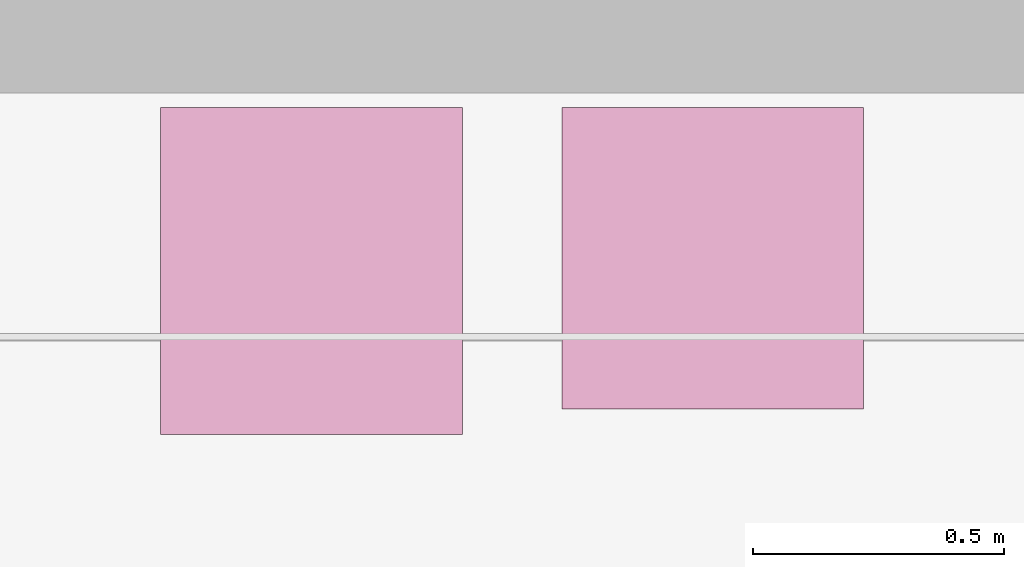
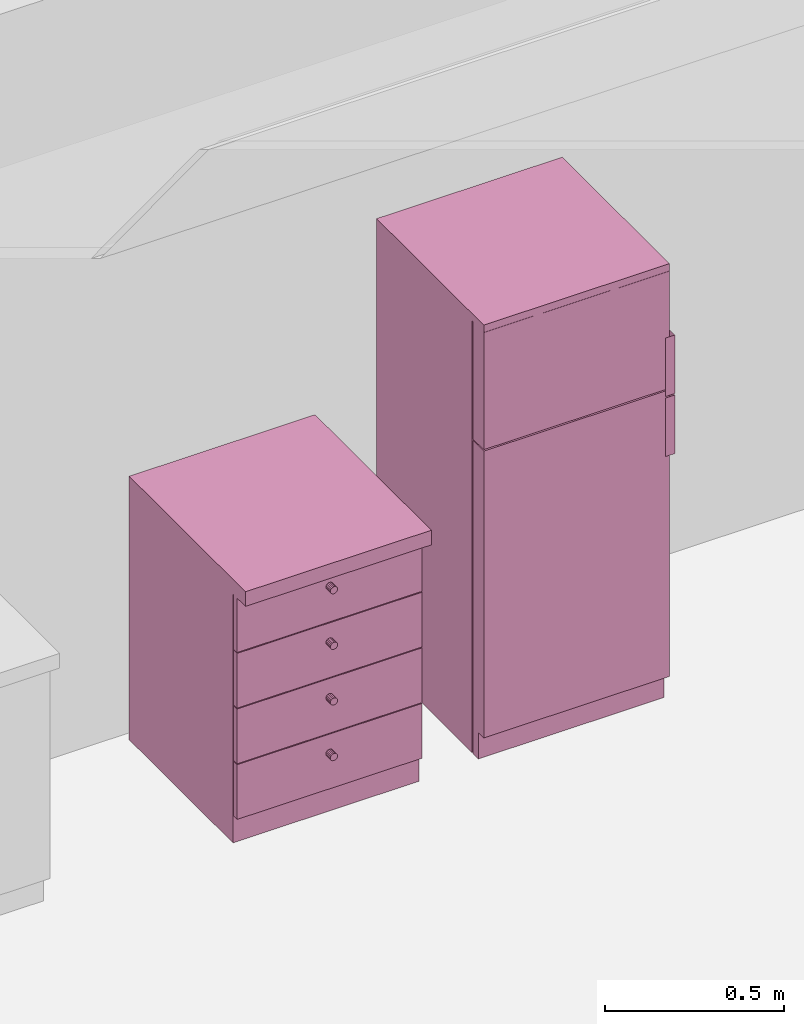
# One storey, part 96 of 127: 2 furnishings.
"""IFC2X3 building model written with IfcOpenShell, lengths in millimetres."""

from ifc_helpers import new_model, entity, si_unit, converted_unit, derived_unit, money_unit, direction, frame, origin_with_axes, place, context, subcontext, project, spatial, open_shell, faceted_brep, surface_model, source, transform, mapped, type_object, element, save


model = new_model("IFC2X3")

# Units and contexts
model_context = context("Model", 3, precision=1e-05, world=origin_with_axes(), true_north=direction((0.0, 1.0)))
body_context = subcontext(model_context, "Body", "Model", "MODEL_VIEW")
ifc_project = project(units=[si_unit("LENGTHUNIT", "METRE", prefix="MILLI"), si_unit("AREAUNIT", "SQUARE_METRE"), si_unit("VOLUMEUNIT", "CUBIC_METRE"), converted_unit("PLANEANGLEUNIT", "DEGREE", entity("IfcPlaneAngleMeasure", 0.0174532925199), si_unit("PLANEANGLEUNIT", "RADIAN"), dimensions=[0, 0, 0, 0, 0, 0, 0]), si_unit("SOLIDANGLEUNIT", "STERADIAN"), money_unit("EUR"), converted_unit("TIMEUNIT", "Year", entity("IfcTimeMeasure", 31556926.0), si_unit("TIMEUNIT", "SECOND"), dimensions=[0, 0, 1, 0, 0, 0, 0]), si_unit("MASSUNIT", "GRAM", prefix="KILO"), si_unit("THERMODYNAMICTEMPERATUREUNIT", "DEGREE_CELSIUS"), si_unit("LUMINOUSINTENSITYUNIT", "LUMEN"), si_unit("ENERGYUNIT", "JOULE", prefix="MEGA"), derived_unit("THERMALCONDUCTANCEUNIT", [(si_unit("POWERUNIT", "WATT"), 1), (si_unit("LENGTHUNIT", "METRE"), -1), (si_unit("THERMODYNAMICTEMPERATUREUNIT", "KELVIN"), -1)]), derived_unit("SPECIFICHEATCAPACITYUNIT", [(si_unit("ENERGYUNIT", "JOULE"), 1), (si_unit("MASSUNIT", "GRAM", prefix="KILO"), -1), (si_unit("THERMODYNAMICTEMPERATUREUNIT", "KELVIN"), -1)]), derived_unit("MASSDENSITYUNIT", [(si_unit("MASSUNIT", "GRAM", prefix="KILO"), 1), (si_unit("VOLUMEUNIT", "CUBIC_METRE"), -1)])], contexts=[model_context])

# Site, building, storey
site_placement = place(None, origin_with_axes())
site = spatial("IfcSite", under=ifc_project, at=site_placement, Name="Site", CompositionType="ELEMENT")
building_placement = place(site_placement, origin_with_axes())
building = spatial("IfcBuilding", under=site, at=building_placement, Name="Building", CompositionType="ELEMENT")
storey_placement = place(building_placement, origin_with_axes())
storey = spatial("IfcBuildingStorey", under=building, at=storey_placement, Name="1 KORRUS", CompositionType="ELEMENT", Elevation=0.0)

# Furnishings
furnishing_element_type_1 = type_object("IfcFurnishingElementType", Name="Model Element 27")
shared_shape_1 = source(origin_with_axes(), body_context, "Body", "Brep", [
    faceted_brep([(1.5, 70.0, 91.5), (599.229420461, 70.0, 91.5), (599.229420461, 50.0, 91.5), (1.5, 50.0, 91.5), (1.5, 70.0, 278.5), (599.229420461, 70.0, 278.5), (599.229420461, 50.0, 278.5), (1.5, 50.0, 278.5)], [[[0, 1, 2, 3]], [[0, 4, 5, 1]], [[1, 5, 6, 2]], [[3, 2, 6, 7]], [[4, 0, 3, 7]], [[5, 4, 7, 6]]]),
    faceted_brep([(295.772509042, 50.0, 203.91344561), (291.879428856, 50.0, 206.514718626), (289.27815584, 50.0, 210.407798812), (288.364710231, 50.0, 215.0), (289.27815584, 50.0, 219.592201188), (291.879428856, 50.0, 223.485281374), (295.772509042, 50.0, 226.08655439), (300.364710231, 50.0, 227.0), (304.956911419, 50.0, 226.08655439), (308.849991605, 50.0, 223.485281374), (311.451264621, 50.0, 219.592201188), (312.364710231, 50.0, 215.0), (311.451264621, 50.0, 210.407798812), (308.849991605, 50.0, 206.514718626), (304.956911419, 50.0, 203.91344561), (300.364710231, 50.0, 203.0), (295.772509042, 25.0, 203.91344561), (291.879428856, 25.0, 206.514718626), (289.27815584, 25.0, 210.407798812), (288.364710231, 25.0, 215.0), (289.27815584, 25.0, 219.592201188), (291.879428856, 25.0, 223.485281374), (295.772509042, 25.0, 226.08655439), (300.364710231, 25.0, 227.0), (304.956911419, 25.0, 226.08655439), (308.849991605, 25.0, 223.485281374), (311.451264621, 25.0, 219.592201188), (312.364710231, 25.0, 215.0), (311.451264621, 25.0, 210.407798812), (308.849991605, 25.0, 206.514718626), (304.956911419, 25.0, 203.91344561), (300.364710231, 25.0, 203.0)], [[[0, 1, 2, 3, 4, 5, 6, 7, 8, 9, 10, 11, 12, 13, 14, 15]], [[1, 0, 16, 17]], [[2, 1, 17, 18]], [[3, 2, 18, 19]], [[4, 3, 19, 20]], [[5, 4, 20, 21]], [[6, 5, 21, 22]], [[7, 6, 22, 23]], [[8, 7, 23, 24]], [[9, 8, 24, 25]], [[10, 9, 25, 26]], [[11, 10, 26, 27]], [[12, 11, 27, 28]], [[13, 12, 28, 29]], [[14, 13, 29, 30]], [[15, 14, 30, 31]], [[0, 15, 31, 16]], [[16, 31, 30, 29, 28, 27, 26, 25, 24, 23, 22, 21, 20, 19, 18, 17]]]),
    faceted_brep([(1.5, 70.0, 281.5), (599.229420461, 70.0, 281.5), (599.229420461, 50.0, 281.5), (1.5, 50.0, 281.5), (1.5, 70.0, 468.5), (599.229420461, 70.0, 468.5), (599.229420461, 50.0, 468.5), (1.5, 50.0, 468.5)], [[[0, 1, 2, 3]], [[0, 4, 5, 1]], [[1, 5, 6, 2]], [[3, 2, 6, 7]], [[4, 0, 3, 7]], [[5, 4, 7, 6]]]),
    faceted_brep([(295.772509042, 50.0, 393.91344561), (291.879428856, 50.0, 396.514718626), (289.27815584, 50.0, 400.407798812), (288.364710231, 50.0, 405.0), (289.27815584, 50.0, 409.592201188), (291.879428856, 50.0, 413.485281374), (295.772509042, 50.0, 416.08655439), (300.364710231, 50.0, 417.0), (304.956911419, 50.0, 416.08655439), (308.849991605, 50.0, 413.485281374), (311.451264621, 50.0, 409.592201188), (312.364710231, 50.0, 405.0), (311.451264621, 50.0, 400.407798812), (308.849991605, 50.0, 396.514718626), (304.956911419, 50.0, 393.91344561), (300.364710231, 50.0, 393.0), (295.772509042, 25.0, 393.91344561), (291.879428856, 25.0, 396.514718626), (289.27815584, 25.0, 400.407798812), (288.364710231, 25.0, 405.0), (289.27815584, 25.0, 409.592201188), (291.879428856, 25.0, 413.485281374), (295.772509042, 25.0, 416.08655439), (300.364710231, 25.0, 417.0), (304.956911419, 25.0, 416.08655439), (308.849991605, 25.0, 413.485281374), (311.451264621, 25.0, 409.592201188), (312.364710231, 25.0, 405.0), (311.451264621, 25.0, 400.407798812), (308.849991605, 25.0, 396.514718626), (304.956911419, 25.0, 393.91344561), (300.364710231, 25.0, 393.0)], [[[0, 1, 2, 3, 4, 5, 6, 7, 8, 9, 10, 11, 12, 13, 14, 15]], [[1, 0, 16, 17]], [[2, 1, 17, 18]], [[3, 2, 18, 19]], [[4, 3, 19, 20]], [[5, 4, 20, 21]], [[6, 5, 21, 22]], [[7, 6, 22, 23]], [[8, 7, 23, 24]], [[9, 8, 24, 25]], [[10, 9, 25, 26]], [[11, 10, 26, 27]], [[12, 11, 27, 28]], [[13, 12, 28, 29]], [[14, 13, 29, 30]], [[15, 14, 30, 31]], [[0, 15, 31, 16]], [[16, 31, 30, 29, 28, 27, 26, 25, 24, 23, 22, 21, 20, 19, 18, 17]]]),
    faceted_brep([(20.0, 70.0, 280.0), (580.729420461, 70.0, 280.0), (580.729420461, 70.0, 300.0), (20.0, 70.0, 300.0), (20.0, 631.095435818, 280.0), (580.729420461, 631.095435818, 280.0), (580.729420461, 631.095435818, 300.0), (20.0, 631.095435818, 300.0)], [[[0, 1, 2, 3]], [[0, 4, 5, 1]], [[1, 5, 6, 2]], [[3, 2, 6, 7]], [[4, 0, 3, 7]], [[5, 4, 7, 6]]]),
    faceted_brep([(1.5, 70.0, 471.5), (599.229420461, 70.0, 471.5), (599.229420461, 50.0, 471.5), (1.5, 50.0, 471.5), (1.5, 70.0, 658.5), (599.229420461, 70.0, 658.5), (599.229420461, 50.0, 658.5), (1.5, 50.0, 658.5)], [[[0, 1, 2, 3]], [[0, 4, 5, 1]], [[1, 5, 6, 2]], [[3, 2, 6, 7]], [[4, 0, 3, 7]], [[5, 4, 7, 6]]]),
    faceted_brep([(295.772509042, 50.0, 583.91344561), (291.879428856, 50.0, 586.514718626), (289.27815584, 50.0, 590.407798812), (288.364710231, 50.0, 595.0), (289.27815584, 50.0, 599.592201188), (291.879428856, 50.0, 603.485281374), (295.772509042, 50.0, 606.08655439), (300.364710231, 50.0, 607.0), (304.956911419, 50.0, 606.08655439), (308.849991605, 50.0, 603.485281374), (311.451264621, 50.0, 599.592201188), (312.364710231, 50.0, 595.0), (311.451264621, 50.0, 590.407798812), (308.849991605, 50.0, 586.514718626), (304.956911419, 50.0, 583.91344561), (300.364710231, 50.0, 583.0), (295.772509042, 25.0, 583.91344561), (291.879428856, 25.0, 586.514718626), (289.27815584, 25.0, 590.407798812), (288.364710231, 25.0, 595.0), (289.27815584, 25.0, 599.592201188), (291.879428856, 25.0, 603.485281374), (295.772509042, 25.0, 606.08655439), (300.364710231, 25.0, 607.0), (304.956911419, 25.0, 606.08655439), (308.849991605, 25.0, 603.485281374), (311.451264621, 25.0, 599.592201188), (312.364710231, 25.0, 595.0), (311.451264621, 25.0, 590.407798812), (308.849991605, 25.0, 586.514718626), (304.956911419, 25.0, 583.91344561), (300.364710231, 25.0, 583.0)], [[[0, 1, 2, 3, 4, 5, 6, 7, 8, 9, 10, 11, 12, 13, 14, 15]], [[1, 0, 16, 17]], [[2, 1, 17, 18]], [[3, 2, 18, 19]], [[4, 3, 19, 20]], [[5, 4, 20, 21]], [[6, 5, 21, 22]], [[7, 6, 22, 23]], [[8, 7, 23, 24]], [[9, 8, 24, 25]], [[10, 9, 25, 26]], [[11, 10, 26, 27]], [[12, 11, 27, 28]], [[13, 12, 28, 29]], [[14, 13, 29, 30]], [[15, 14, 30, 31]], [[0, 15, 31, 16]], [[16, 31, 30, 29, 28, 27, 26, 25, 24, 23, 22, 21, 20, 19, 18, 17]]]),
    faceted_brep([(20.0, 70.0, 470.0), (580.729420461, 70.0, 470.0), (580.729420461, 70.0, 490.0), (20.0, 70.0, 490.0), (20.0, 631.095435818, 470.0), (580.729420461, 631.095435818, 470.0), (580.729420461, 631.095435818, 490.0), (20.0, 631.095435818, 490.0)], [[[0, 1, 2, 3]], [[0, 4, 5, 1]], [[1, 5, 6, 2]], [[3, 2, 6, 7]], [[4, 0, 3, 7]], [[5, 4, 7, 6]]]),
    faceted_brep([(1.5, 70.0, 661.5), (599.229420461, 70.0, 661.5), (599.229420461, 50.0, 661.5), (1.5, 50.0, 661.5), (1.5, 70.0, 848.5), (599.229420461, 70.0, 848.5), (599.229420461, 50.0, 848.5), (1.5, 50.0, 848.5)], [[[0, 1, 2, 3]], [[0, 4, 5, 1]], [[1, 5, 6, 2]], [[3, 2, 6, 7]], [[4, 0, 3, 7]], [[5, 4, 7, 6]]]),
    faceted_brep([(295.772509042, 50.0, 773.91344561), (291.879428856, 50.0, 776.514718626), (289.27815584, 50.0, 780.407798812), (288.364710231, 50.0, 785.0), (289.27815584, 50.0, 789.592201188), (291.879428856, 50.0, 793.485281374), (295.772509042, 50.0, 796.08655439), (300.364710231, 50.0, 797.0), (304.956911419, 50.0, 796.08655439), (308.849991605, 50.0, 793.485281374), (311.451264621, 50.0, 789.592201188), (312.364710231, 50.0, 785.0), (311.451264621, 50.0, 780.407798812), (308.849991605, 50.0, 776.514718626), (304.956911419, 50.0, 773.91344561), (300.364710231, 50.0, 773.0), (295.772509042, 25.0, 773.91344561), (291.879428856, 25.0, 776.514718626), (289.27815584, 25.0, 780.407798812), (288.364710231, 25.0, 785.0), (289.27815584, 25.0, 789.592201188), (291.879428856, 25.0, 793.485281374), (295.772509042, 25.0, 796.08655439), (300.364710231, 25.0, 797.0), (304.956911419, 25.0, 796.08655439), (308.849991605, 25.0, 793.485281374), (311.451264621, 25.0, 789.592201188), (312.364710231, 25.0, 785.0), (311.451264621, 25.0, 780.407798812), (308.849991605, 25.0, 776.514718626), (304.956911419, 25.0, 773.91344561), (300.364710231, 25.0, 773.0)], [[[0, 1, 2, 3, 4, 5, 6, 7, 8, 9, 10, 11, 12, 13, 14, 15]], [[1, 0, 16, 17]], [[2, 1, 17, 18]], [[3, 2, 18, 19]], [[4, 3, 19, 20]], [[5, 4, 20, 21]], [[6, 5, 21, 22]], [[7, 6, 22, 23]], [[8, 7, 23, 24]], [[9, 8, 24, 25]], [[10, 9, 25, 26]], [[11, 10, 26, 27]], [[12, 11, 27, 28]], [[13, 12, 28, 29]], [[14, 13, 29, 30]], [[15, 14, 30, 31]], [[0, 15, 31, 16]], [[16, 31, 30, 29, 28, 27, 26, 25, 24, 23, 22, 21, 20, 19, 18, 17]]]),
    faceted_brep([(20.0, 70.0, 660.0), (580.729420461, 70.0, 660.0), (580.729420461, 70.0, 680.0), (20.0, 70.0, 680.0), (20.0, 631.095435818, 660.0), (580.729420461, 631.095435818, 660.0), (580.729420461, 631.095435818, 680.0), (20.0, 631.095435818, 680.0)], [[[0, 1, 2, 3]], [[0, 4, 5, 1]], [[1, 5, 6, 2]], [[3, 2, 6, 7]], [[4, 0, 3, 7]], [[5, 4, 7, 6]]]),
    faceted_brep([(0.0, 70.0, 0.0), (600.729420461, 70.0, 0.0), (600.729420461, 70.0, 90.0), (0.0, 70.0, 90.0), (0.0, 651.095435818, 0.0), (600.729420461, 651.095435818, 0.0), (600.729420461, 651.095435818, 90.0), (0.0, 651.095435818, 90.0)], [[[0, 1, 2, 3]], [[0, 4, 5, 1]], [[1, 5, 6, 2]], [[3, 2, 6, 7]], [[4, 0, 3, 7]], [[5, 4, 7, 6]]]),
    faceted_brep([(0.0, 70.0, 830.0), (20.0, 70.0, 830.0), (20.0, 70.0, 850.0), (0.0, 70.0, 850.0), (0.0, 651.095435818, 830.0), (20.0, 651.095435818, 830.0), (580.729420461, 651.095435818, 830.0), (600.729420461, 651.095435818, 830.0), (600.729420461, 70.0, 830.0), (580.729420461, 70.0, 830.0), (580.729420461, 70.0, 850.0), (600.729420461, 70.0, 850.0), (600.729420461, 651.095435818, 850.0), (580.729420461, 651.095435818, 850.0), (20.0, 651.095435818, 850.0), (0.0, 651.095435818, 850.0)], [[[0, 1, 2, 3]], [[0, 4, 5, 6, 7, 8, 9, 1]], [[1, 9, 10, 2]], [[3, 2, 10, 11, 12, 13, 14, 15]], [[4, 0, 3, 15]], [[5, 4, 15, 14]], [[6, 5, 14, 13]], [[7, 6, 13, 12]], [[8, 7, 12, 11]], [[9, 8, 11, 10]]]),
    faceted_brep([(0.0, 70.0, 90.0), (20.0, 70.0, 90.0), (20.0, 70.0, 110.0), (0.0, 70.0, 110.0), (0.0, 651.095435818, 90.0), (20.0, 651.095435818, 90.0), (580.729420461, 651.095435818, 90.0), (600.729420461, 651.095435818, 90.0), (600.729420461, 70.0, 90.0), (580.729420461, 70.0, 90.0), (580.729420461, 70.0, 110.0), (600.729420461, 70.0, 110.0), (600.729420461, 651.095435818, 110.0), (580.729420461, 651.095435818, 110.0), (20.0, 651.095435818, 110.0), (0.0, 651.095435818, 110.0)], [[[0, 1, 2, 3]], [[0, 4, 5, 6, 7, 8, 9, 1]], [[1, 9, 10, 2]], [[3, 2, 10, 11, 12, 13, 14, 15]], [[4, 0, 3, 15]], [[5, 4, 15, 14]], [[6, 5, 14, 13]], [[7, 6, 13, 12]], [[8, 7, 12, 11]], [[9, 8, 11, 10]]]),
    faceted_brep([(0.0, 70.0, 110.0), (20.0, 70.0, 110.0), (20.0, 70.0, 830.0), (0.0, 70.0, 830.0), (0.0, 651.095435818, 110.0), (600.729420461, 651.095435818, 110.0), (600.729420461, 70.0, 110.0), (580.729420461, 70.0, 110.0), (580.729420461, 631.095435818, 110.0), (20.0, 631.095435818, 110.0), (20.0, 631.095435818, 830.0), (580.729420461, 631.095435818, 830.0), (580.729420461, 70.0, 830.0), (600.729420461, 70.0, 830.0), (600.729420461, 651.095435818, 830.0), (0.0, 651.095435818, 830.0)], [[[0, 1, 2, 3]], [[0, 4, 5, 6, 7, 8, 9, 1]], [[1, 9, 10, 2]], [[3, 2, 10, 11, 12, 13, 14, 15]], [[4, 0, 3, 15]], [[5, 4, 15, 14]], [[6, 5, 14, 13]], [[7, 6, 13, 12]], [[8, 7, 12, 11]], [[9, 8, 11, 10]]]),
    faceted_brep([(0.0, 0.0, 850.0), (600.729420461, 0.0, 850.0), (600.729420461, 0.0, 900.0), (0.0, 0.0, 900.0), (0.0, 651.095435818, 850.0), (600.729420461, 651.095435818, 850.0), (600.729420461, 651.095435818, 900.0), (0.0, 651.095435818, 900.0)], [[[0, 1, 2, 3]], [[0, 4, 5, 1]], [[1, 5, 6, 2]], [[3, 2, 6, 7]], [[4, 0, 3, 7]], [[5, 4, 7, 6]]]),
])
furnishing_1_placement = place(storey_placement, frame((21041.4042537, 64536.2438679, 0.0), z_axis=(0.0, 0.0, 1.0), x_axis=(1.0, 0.0, 0.0)))
element("IfcFurnishingElement", 1, at=furnishing_1_placement, inside=storey, type_object=furnishing_element_type_1, Name="FU - 006", context=body_context, shape_type="MappedRepresentation", body=[
    mapped(shared_shape_1, transform((0.0, 0.0, 0.0))),
])
furnishing_element_type_2 = type_object("IfcFurnishingElementType", Name="Model Element 13")
shared_shape_2 = source(origin_with_axes(), body_context, "Body", "SurfaceModel", [
    faceted_brep([(0.0, 0.0, 1475.0), (600.0, 0.0, 1475.0), (600.0, 0.0, 1500.0), (0.0, 0.0, 1500.0), (0.0, 600.0, 1475.0), (600.0, 600.0, 1475.0), (600.0, 600.0, 1500.0), (0.0, 600.0, 1500.0)], [[[0, 1, 2, 3]], [[0, 4, 5, 1]], [[1, 5, 6, 2]], [[3, 2, 6, 7]], [[4, 0, 3, 7]], [[5, 4, 7, 6]]]),
    faceted_brep([(0.0, 65.0, 0.0), (600.0, 65.0, 0.0), (600.0, 65.0, 1475.0), (0.0, 65.0, 1475.0), (0.0, 600.0, 0.0), (600.0, 600.0, 0.0), (600.0, 600.0, 1475.0), (0.0, 600.0, 1475.0)], [[[0, 1, 2, 3]], [[0, 4, 5, 1]], [[1, 5, 6, 2]], [[3, 2, 6, 7]], [[4, 0, 3, 7]], [[5, 4, 7, 6]]]),
    faceted_brep([(0.0, 30.0, 0.0), (600.0, 30.0, 0.0), (600.0, 30.0, 90.0), (0.0, 30.0, 90.0), (0.0, 60.0, 0.0), (600.0, 60.0, 0.0), (600.0, 60.0, 90.0), (0.0, 60.0, 90.0)], [[[0, 1, 2, 3]], [[0, 4, 5, 1]], [[1, 5, 6, 2]], [[3, 2, 6, 7]], [[4, 0, 3, 7]], [[5, 4, 7, 6]]]),
    faceted_brep([(0.0, 60.0, 90.0), (600.0, 60.0, 90.0), (600.0, 0.0, 90.0), (0.0, 0.0, 90.0), (0.0, 60.0, 1069.5), (600.0, 60.0, 1069.5), (600.0, 0.0, 1069.5), (0.0, 0.0, 1069.5)], [[[0, 1, 2, 3]], [[0, 4, 5, 1]], [[1, 5, 6, 2]], [[3, 2, 6, 7]], [[4, 0, 3, 7]], [[5, 4, 7, 6]]]),
    faceted_brep([(0.0, 60.0, 1074.5), (600.0, 60.0, 1074.5), (600.0, 0.0, 1074.5), (0.0, 0.0, 1074.5), (0.0, 60.0, 1474.5), (600.0, 60.0, 1474.5), (600.0, 0.0, 1474.5), (0.0, 0.0, 1474.5)], [[[0, 1, 2, 3]], [[0, 4, 5, 1]], [[1, 5, 6, 2]], [[3, 2, 6, 7]], [[4, 0, 3, 7]], [[5, 4, 7, 6]]]),
    surface_model("IfcShellBasedSurfaceModel", [(600.0, -30.0, 869.5), (600.0, -30.0, 1069.5), (600.0, 0.0, 1069.5), (600.0, 0.0, 869.5)], [open_shell([[[0, 1, 2, 3]]])]),
    surface_model("IfcShellBasedSurfaceModel", [(600.0, -30.0, 869.5), (600.0, -30.0, 1069.5), (570.0, -30.0, 1069.5), (570.0, -30.0, 869.5)], [open_shell([[[0, 1, 2, 3]]])]),
    surface_model("IfcShellBasedSurfaceModel", [(600.0, -30.0, 1074.5), (600.0, -30.0, 1274.5), (600.0, 0.0, 1274.5), (600.0, 0.0, 1074.5)], [open_shell([[[0, 1, 2, 3]]])]),
    surface_model("IfcShellBasedSurfaceModel", [(600.0, -30.0, 1074.5), (600.0, -30.0, 1274.5), (570.0, -30.0, 1274.5), (570.0, -30.0, 1074.5)], [open_shell([[[0, 1, 2, 3]]])]),
])
furnishing_2_placement = place(storey_placement, frame((21840.758124, 64587.3393038, 0.0), z_axis=(0.0, 0.0, 1.0), x_axis=(1.0, 0.0, 0.0)))
element("IfcFurnishingElement", 2, at=furnishing_2_placement, inside=storey, type_object=furnishing_element_type_2, Name="FU - 010", context=body_context, shape_type="MappedRepresentation", body=[
    mapped(shared_shape_2, transform((0.0, 0.0, 0.0))),
])

save(model, "model.ifc")
